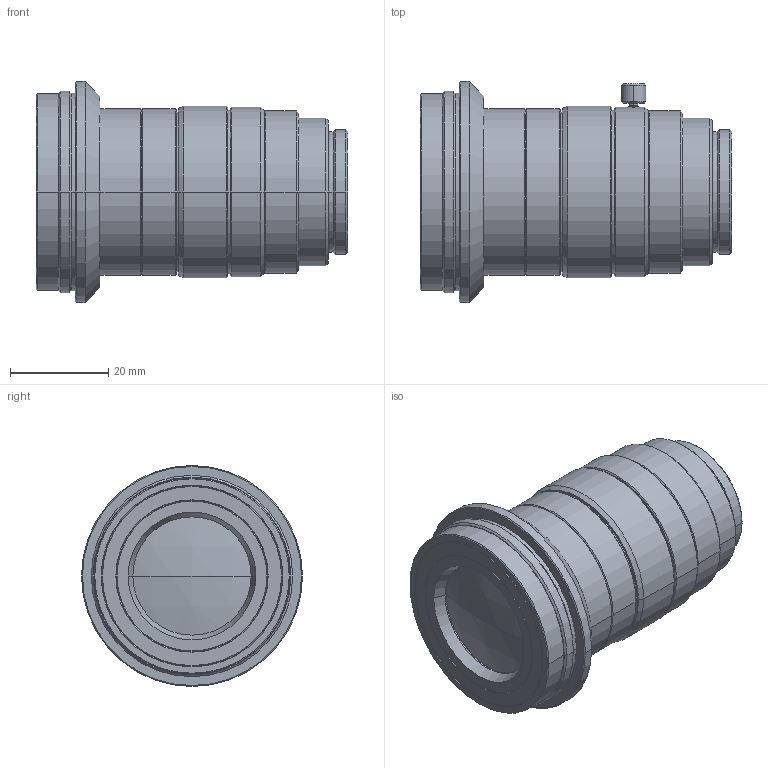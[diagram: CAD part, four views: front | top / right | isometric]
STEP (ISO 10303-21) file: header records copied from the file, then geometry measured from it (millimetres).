
FILE_DESCRIPTION (( 'STEP AP203' ), '1' );
FILE_NAME ('VS-TLS300-003B.STEP', '2020-10-04T11:50:19', ( '' ), ( '' ), 'SwSTEP 2.0', 'SolidWorks 2020', '' );
FILE_SCHEMA (( 'CONFIG_CONTROL_DESIGN' ));
Length unit declared in the file: millimetre
Products named in the file (1): VS-TLS300-003B
Bounding box: 63.5 x 45 x 45 mm (x, y, z)
Volume: 46872.5 mm3; surface area: 22303.5 mm2
Topology: 1 solids, 1 shells, 243 faces, 487 edges, 286 vertices
Faces by surface type: cone 116, cylinder 82, plane 41, sphere 4
Entity records: 6400 total; most frequent: DIRECTION 1255, CARTESIAN_POINT 1051, ORIENTED_EDGE 974, AXIS2_PLACEMENT_3D 528, EDGE_CURVE 487, VERTEX_POINT 286, CIRCLE 284, EDGE_LOOP 283
